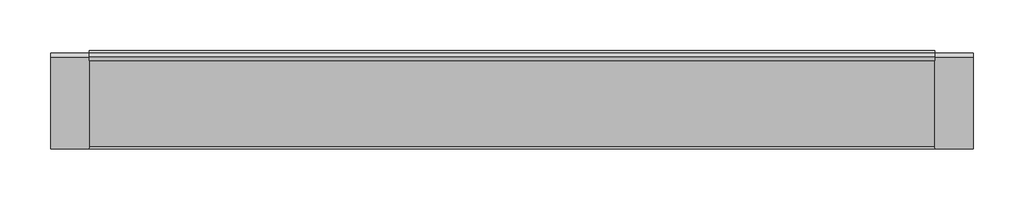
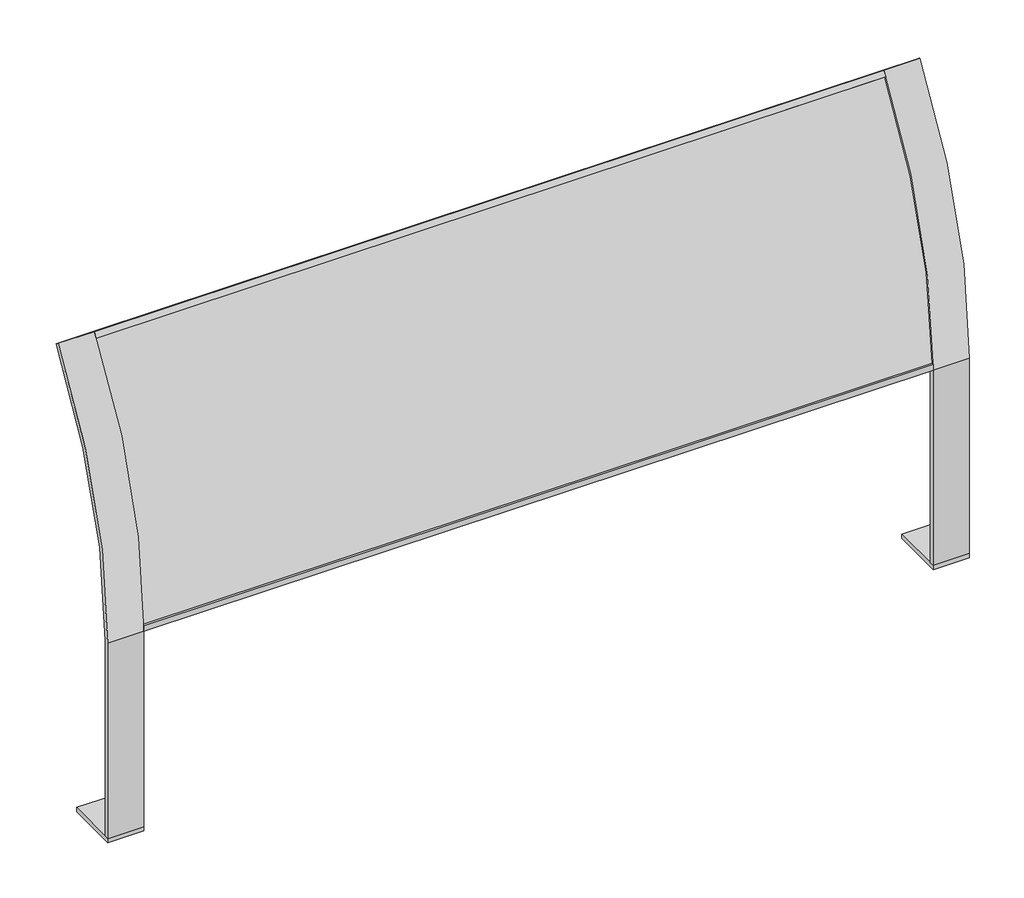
# One storey: 1 proxy.
"""IFC4 building model written with IfcOpenShell, lengths in millimetres."""

from ifc_helpers import new_model, si_unit, origin, place, context, project, spatial, transform, mapped, element, save
from components import qf_atlasmetal_cps_cat_qf_atlasmetal_cps_cat_13a1b425

model = new_model("IFC4")

# Units and contexts
model_context = context("Model", 3, world=origin())
ifc_project = project(units=[si_unit("LENGTHUNIT", "METRE", prefix="MILLI")], contexts=[model_context])

# Site, building, storey
site = spatial("IfcSite", under=ifc_project)
building = spatial("IfcBuilding", under=site)
storey = spatial("IfcBuildingStorey", under=building, Name="Level 02 - T.O. Footing", Elevation=-2743.2)

# Proxy
placement = place(None, origin())
qf_atlasmetal_cps_cat_qf_atlasmetal_cps_cat_shape = qf_atlasmetal_cps_cat_qf_atlasmetal_cps_cat_13a1b425(model_context)
element("IfcBuildingElementProxy", 1, Name="QF_AtlasMetal_CPS_cat : QF_AtlasMetal_CPS_cat", ObjectType="QF_AtlasMetal_CPS_cat : QF_AtlasMetal_CPS_cat", at=placement, inside=storey, context=model_context, shape_type="MappedRepresentation", body=[
    mapped(qf_atlasmetal_cps_cat_qf_atlasmetal_cps_cat_shape, transform((8693.5801615, 7833.6279716, -2743.2), x_axis=(1.0, 0.0, 0.0), y_axis=(0.0, 1.0, 0.0), z_axis=(0.0, 0.0, 1.0))),
])

save(model, "model.ifc")
